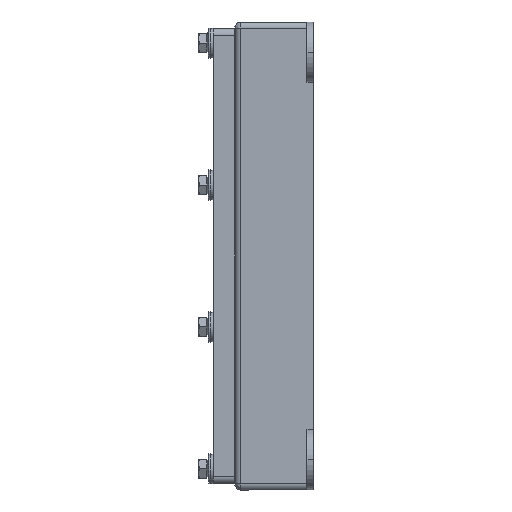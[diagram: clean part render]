
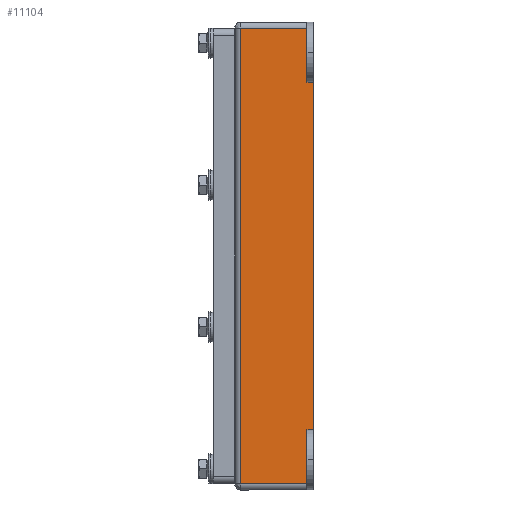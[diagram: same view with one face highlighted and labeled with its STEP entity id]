
A CAD part, left-side view. The second image highlights one B-rep face of the part: STEP entity #11104.
In plain terms, the highlighted planar face has unit normal (-1, 0, 0).
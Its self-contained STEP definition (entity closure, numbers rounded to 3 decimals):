
#5644 = CARTESIAN_POINT ( 'NONE',  ( -171.45, 6.275, 92.15 ) ) ;
#5709 = DIRECTION ( 'NONE',  ( 0., 0., -1. ) ) ;
#5710 = VECTOR ( 'NONE', #5709, 1000. ) ;
#5761 = CARTESIAN_POINT ( 'NONE',  ( -171.45, -21.538, -3.735 ) ) ;
#5762 = LINE ( 'NONE', #5761, #5710 ) ;
#5763 = CARTESIAN_POINT ( 'NONE',  ( -171.45, 6.275, -99.62 ) ) ;
#5791 = CARTESIAN_POINT ( 'NONE',  ( -171.45, -21.538, 69.29 ) ) ;
#5907 = LINE ( 'NONE', #5994, #5991 ) ;
#5938 = DIRECTION ( 'NONE',  ( 0., -1., 0. ) ) ;
#5939 = VECTOR ( 'NONE', #5938, 1000. ) ;
#5940 = CARTESIAN_POINT ( 'NONE',  ( -171.45, -7.695, 92.15 ) ) ;
#5941 = LINE ( 'NONE', #5940, #5939 ) ;
#5990 = DIRECTION ( 'NONE',  ( 0., 0., -1. ) ) ;
#5991 = VECTOR ( 'NONE', #5990, 1000. ) ;
#5994 = CARTESIAN_POINT ( 'NONE',  ( -171.45, -21.538, -3.735 ) ) ;
#6029 = CARTESIAN_POINT ( 'NONE',  ( -171.45, -21.538, 92.15 ) ) ;
#6150 = CARTESIAN_POINT ( 'NONE',  ( -171.45, -21.538, -99.62 ) ) ;
#6151 = CARTESIAN_POINT ( 'NONE',  ( -171.45, -21.538, -76.76 ) ) ;
#6190 = DIRECTION ( 'NONE',  ( 0., 1., 0. ) ) ;
#6191 = VECTOR ( 'NONE', #6190, 1000. ) ;
#6210 = CARTESIAN_POINT ( 'NONE',  ( -171.45, -7.695, -99.62 ) ) ;
#6211 = LINE ( 'NONE', #6210, #6191 ) ;
#6317 = PLANE ( 'NONE',  #6368 ) ;
#6324 = LINE ( 'NONE', #6353, #6350 ) ;
#6347 = LINE ( 'NONE', #6405, #6404 ) ;
#6350 = VECTOR ( 'NONE', #6352, 1000. ) ;
#6352 = DIRECTION ( 'NONE',  ( 0., 0., 1. ) ) ;
#6353 = CARTESIAN_POINT ( 'NONE',  ( -171.45, -24.205, -3.735 ) ) ;
#6354 = CARTESIAN_POINT ( 'NONE',  ( -171.45, -24.205, 69.29 ) ) ;
#6355 = DIRECTION ( 'NONE',  ( 0., 1., 0. ) ) ;
#6356 = VECTOR ( 'NONE', #6355, 1000. ) ;
#6357 = FACE_OUTER_BOUND ( 'NONE', #11133, .T. ) ;
#6362 = CARTESIAN_POINT ( 'NONE',  ( -171.45, -7.695, -3.735 ) ) ;
#6368 = AXIS2_PLACEMENT_3D ( 'NONE', #6362, #6409, #6408 ) ;
#6371 = CARTESIAN_POINT ( 'NONE',  ( -171.45, -7.695, -76.76 ) ) ;
#6372 = LINE ( 'NONE', #6371, #6356 ) ;
#6383 = DIRECTION ( 'NONE',  ( 0., 0., 1. ) ) ;
#6384 = VECTOR ( 'NONE', #6383, 1000. ) ;
#6385 = CARTESIAN_POINT ( 'NONE',  ( -171.45, 6.275, -3.735 ) ) ;
#6393 = CARTESIAN_POINT ( 'NONE',  ( -171.45, -24.205, -76.76 ) ) ;
#6402 = LINE ( 'NONE', #6385, #6384 ) ;
#6403 = DIRECTION ( 'NONE',  ( 0., 1., 0. ) ) ;
#6404 = VECTOR ( 'NONE', #6403, 1000. ) ;
#6405 = CARTESIAN_POINT ( 'NONE',  ( -171.45, -22.872, 69.29 ) ) ;
#6408 = DIRECTION ( 'NONE',  ( 0., -1., 0. ) ) ;
#6409 = DIRECTION ( 'NONE',  ( 1., 0., 0. ) ) ;
#10554 = VERTEX_POINT ( 'NONE', #5644 ) ;
#10605 = VERTEX_POINT ( 'NONE', #5763 ) ;
#10624 = VERTEX_POINT ( 'NONE', #5791 ) ;
#10700 = EDGE_CURVE ( 'NONE', #10554, #10731, #5941, .T. ) ;
#10714 = EDGE_CURVE ( 'NONE', #10731, #10624, #5907, .T. ) ;
#10731 = VERTEX_POINT ( 'NONE', #6029 ) ;
#10894 = VERTEX_POINT ( 'NONE', #6151 ) ;
#10908 = VERTEX_POINT ( 'NONE', #6150 ) ;
#10957 = EDGE_CURVE ( 'NONE', #10908, #10605, #6211, .T. ) ;
#10998 = EDGE_CURVE ( 'NONE', #10894, #10908, #5762, .T. ) ;
#11080 = ORIENTED_EDGE ( 'NONE', *, *, #10700, .F. ) ;
#11083 = ORIENTED_EDGE ( 'NONE', *, *, #10998, .F. ) ;
#11095 = EDGE_CURVE ( 'NONE', #11128, #10894, #6372, .T. ) ;
#11099 = EDGE_CURVE ( 'NONE', #11128, #11117, #6324, .T. ) ;
#11101 = ORIENTED_EDGE ( 'NONE', *, *, #11099, .T. ) ;
#11104 = ADVANCED_FACE ( 'NONE', ( #6357 ), #6317, .F. ) ;
#11106 = ORIENTED_EDGE ( 'NONE', *, *, #11129, .F. ) ;
#11108 = ORIENTED_EDGE ( 'NONE', *, *, #11095, .F. ) ;
#11110 = ORIENTED_EDGE ( 'NONE', *, *, #10714, .F. ) ;
#11112 = ORIENTED_EDGE ( 'NONE', *, *, #11113, .T. ) ;
#11113 = EDGE_CURVE ( 'NONE', #11117, #10624, #6347, .T. ) ;
#11115 = ORIENTED_EDGE ( 'NONE', *, *, #10957, .F. ) ;
#11117 = VERTEX_POINT ( 'NONE', #6354 ) ;
#11128 = VERTEX_POINT ( 'NONE', #6393 ) ;
#11129 = EDGE_CURVE ( 'NONE', #10605, #10554, #6402, .T. ) ;
#11133 = EDGE_LOOP ( 'NONE', ( #11108, #11101, #11112, #11110, #11080, #11106, #11115, #11083 ) ) ;
